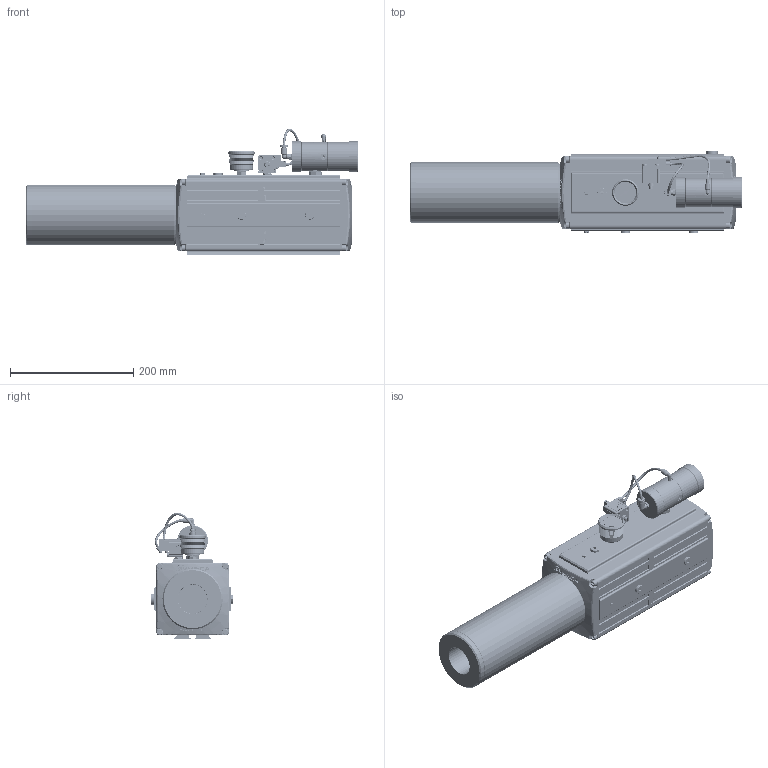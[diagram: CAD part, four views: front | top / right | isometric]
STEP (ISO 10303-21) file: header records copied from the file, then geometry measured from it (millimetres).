
FILE_DESCRIPTION( ( 'Unknown' ), '1' );
FILE_NAME( 'C:/Documents and Settings/Administrator/官帕 拳搁/3D Dimension/MPM303X5-03S-AS.stp', 'Unknown', ( 'Unknown' ), ( 'Unknown' ), 'PSStep 10.0', 'Unknown', ' ' );
FILE_SCHEMA( ( 'AUTOMOTIVE_DESIGN { 1 0 10303 214 1 1 1 1 }' ) );
Length unit declared in the file: millimetre
Products named in the file (29): SILENCER_2; VMS34(DIM); Assem1; VMS34_Cap-34(dim); VMS34_Housing(dim); VMS34_Cap-18(dim); COVER_2; ELEMENT_2; SPONGE_2; END CAP_2; PL-0401_0; M4_0; M4_1_0; M6-Bolt_5; END CAP-212_5; VTP-M5_5; Double Tread PT12M-PT12M_0; Double Tread 18M-18M_0; red_5; VTP18_5; VTP14_5; Vacuum Gauge_5; VPS-01_VMS38_0; M4 ELBOW FITTING_1_0; Air Cirquit_5; END CAP-2_1; Body(re1)(dim); VTP-M5; VTP18
Bounding box: 539.5 x 134 x 205.14 mm (x, y, z)
Volume: 13126238.8 mm3; surface area: 2072535.9 mm2
Topology: 74 solids, 74 shells, 5810 faces, 14725 edges, 9545 vertices
Faces by surface type: plane 3489, cylinder 1353, cone 386, extrusion 192, torus 162, bspline 120, sphere 100, revolution 8
Full cylindrical faces by diameter (mm): 0.274 x2, 0.884 x4, 1.008 x9, 2.2 x4, 2.3 x2, 4 x6, 4.075 x4, 4.134 x12, 4.2 x38, 4.5 x2, 4.552 x4, 5 x4, 5.2 x6, 5.5 x8, 5.85 x4, 6 x13, 6.064 x2, 6.316 x2, 6.337 x4, 6.5 x16, 6.8 x12, 7 x2, 7.94 x2, 8 x6, 8.566 x3, 8.58 x2, 8.6 x2, 8.8 x10, 9 x2, 9.6 x2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
Entity records: 117786 total; most frequent: CARTESIAN_POINT 30793, DIRECTION 12928, ORIENTED_EDGE 12850, EDGE_CURVE 6425, AXIS2_PLACEMENT_3D 4414, VERTEX_POINT 4401, VECTOR 4096, LINE 4000
